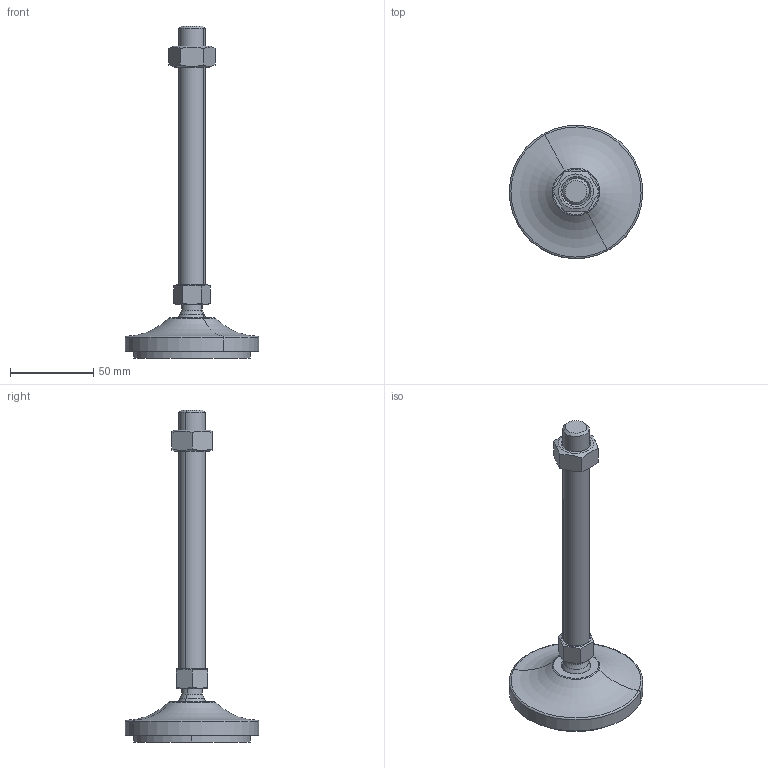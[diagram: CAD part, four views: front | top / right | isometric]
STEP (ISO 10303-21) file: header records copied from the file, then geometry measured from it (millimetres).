
FILE_DESCRIPTION(('CATIA V5 STEP Exchange'),'2;1');
FILE_NAME('C:\Users\ALI OZGUN\Desktop\alhan\saplama2\560801621AV.stp','2017-09-21T10:30:19+00:00',('none'),('none'),'CATIA Version 5 Release 21 GA (IN-10)','CATIA V5 STEP AP203','none');
FILE_SCHEMA(('CONFIG_CONTROL_DESIGN'));
Length unit declared in the file: millimetre
Products named in the file (1): 560801621AV
Bounding box: 79.98 x 79.98 x 199 mm (x, y, z)
Volume: 117716.1 mm3; surface area: 35872.8 mm2
Topology: 4 solids, 4 shells, 64 faces, 142 edges, 87 vertices
Faces by surface type: plane 22, cylinder 16, cone 16, torus 6, revolution 2, sphere 2
Entity records: 1931 total; most frequent: CARTESIAN_POINT 623, ORIENTED_EDGE 280, DIRECTION 198, EDGE_CURVE 140, AXIS2_PLACEMENT_3D 107, VERTEX_POINT 87, EDGE_LOOP 71, ADVANCED_FACE 64
